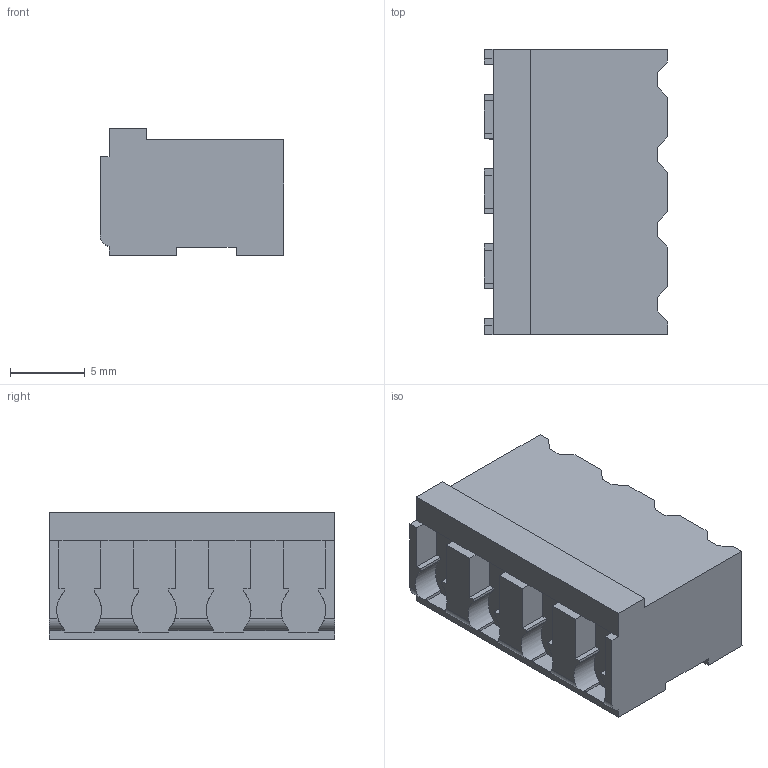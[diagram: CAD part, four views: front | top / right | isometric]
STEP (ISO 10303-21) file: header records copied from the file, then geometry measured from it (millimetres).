
FILE_DESCRIPTION(/* description */ ('STEP AP242 Edition 2','CAx-IF Rec.Pracs.---Representation and Presentation of Product Manufacturing Information (PMI)---4.0---2014-10-13','CAx-IF Rec.Pracs.---3D Tessellated Geometry---0.4---2014-09-14','2;1','CAx-IF Rec.Pracs.---User Defined Attributes---1.5---2016-08-15'),/* implementation_level */ '2;1');
FILE_NAME(/* name */ 'v2_assembly - 1473790000--3DModel-STEP-764301 (12)',/* time_stamp */ '2026-05-19T16:26:03Z',/* author */ (''),/* organization */ (''),/* preprocessor_version */ 'ST-DEVELOPER v20',/* originating_system */ 'ONSHAPE BY PTC INC, 1.215',/* authorisation */ ' ');
FILE_SCHEMA (('AP242_MANAGED_MODEL_BASED_3D_ENGINEERING_MIM_LF { 1 0 10303 442 3 1 4 }'));
Length unit declared in the file: metre
Products named in the file (1): 1473790000--3DModel-STEP-764301
Bounding box: 12.3 x 19.1 x 8.5 mm (x, y, z)
Volume: 1515.9 mm3; surface area: 1220 mm2
Topology: 1 solids, 1 shells, 144 faces, 418 edges, 276 vertices
Faces by surface type: plane 131, cylinder 13
Entity records: 5703 total; most frequent: CARTESIAN_POINT 863, ORIENTED_EDGE 836, DIRECTION 726, EDGE_CURVE 418, LINE 384, VECTOR 384, VERTEX_POINT 276, AXIS2_PLACEMENT_3D 171
